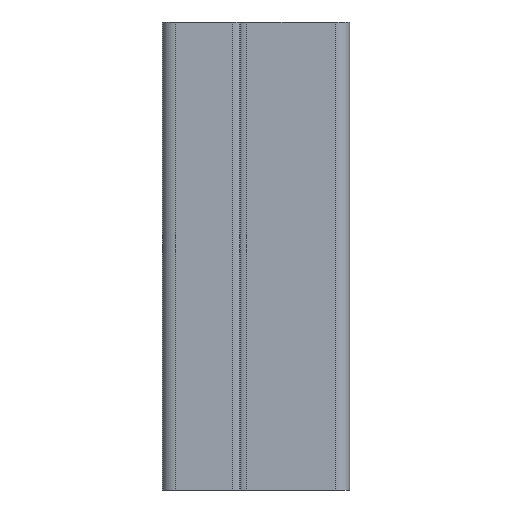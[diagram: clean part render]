
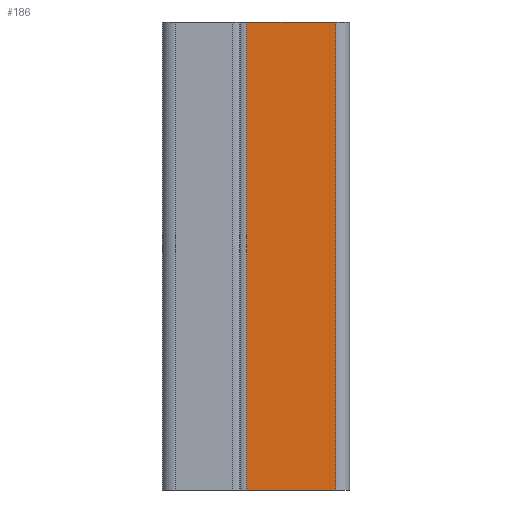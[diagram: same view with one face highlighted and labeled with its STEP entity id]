
A CAD part, left-side view. The second image highlights one B-rep face of the part: STEP entity #186.
In plain terms, the highlighted planar face has unit normal (-1, 0, 0).
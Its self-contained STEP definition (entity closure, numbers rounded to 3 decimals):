
#53 = CARTESIAN_POINT ( 'NONE',  ( -12.5, 9.5, 0. ) ) ;
#112 = VECTOR ( 'NONE', #1296, 1000. ) ;
#113 = EDGE_CURVE ( 'NONE', #1137, #1005, #144, .T. ) ;
#144 = LINE ( 'NONE', #214, #1293 ) ;
#186 = ADVANCED_FACE ( 'NONE', ( #636 ), #322, .F. ) ;
#205 = ORIENTED_EDGE ( 'NONE', *, *, #113, .T. ) ;
#214 = CARTESIAN_POINT ( 'NONE',  ( -12.5, 9.5, 100. ) ) ;
#216 = VERTEX_POINT ( 'NONE', #548 ) ;
#244 = LINE ( 'NONE', #448, #112 ) ;
#261 = EDGE_CURVE ( 'NONE', #216, #1282, #244, .T. ) ;
#322 = PLANE ( 'NONE',  #613 ) ;
#371 = CARTESIAN_POINT ( 'NONE',  ( -12.5, -9.5, 0. ) ) ;
#399 = CARTESIAN_POINT ( 'NONE',  ( -12.5, -9.5, 0. ) ) ;
#448 = CARTESIAN_POINT ( 'NONE',  ( -12.5, -9.5, 100. ) ) ;
#490 = VECTOR ( 'NONE', #893, 1000. ) ;
#533 = CARTESIAN_POINT ( 'NONE',  ( -12.5, -9.5, 100. ) ) ;
#543 = LINE ( 'NONE', #371, #877 ) ;
#548 = CARTESIAN_POINT ( 'NONE',  ( -12.5, -9.5, 100. ) ) ;
#563 = DIRECTION ( 'NONE',  ( 0., -1., 0. ) ) ;
#613 = AXIS2_PLACEMENT_3D ( 'NONE', #533, #1285, #761 ) ;
#636 = FACE_OUTER_BOUND ( 'NONE', #983, .T. ) ;
#759 = ORIENTED_EDGE ( 'NONE', *, *, #1298, .T. ) ;
#761 = DIRECTION ( 'NONE',  ( 0., 1., 0. ) ) ;
#807 = LINE ( 'NONE', #1229, #490 ) ;
#858 = DIRECTION ( 'NONE',  ( 0., 0., -1. ) ) ;
#877 = VECTOR ( 'NONE', #563, 1000. ) ;
#893 = DIRECTION ( 'NONE',  ( 0., -1., 0. ) ) ;
#983 = EDGE_LOOP ( 'NONE', ( #759, #1329, #1068, #205 ) ) ;
#1005 = VERTEX_POINT ( 'NONE', #53 ) ;
#1068 = ORIENTED_EDGE ( 'NONE', *, *, #1092, .F. ) ;
#1092 = EDGE_CURVE ( 'NONE', #1137, #216, #807, .T. ) ;
#1137 = VERTEX_POINT ( 'NONE', #1314 ) ;
#1229 = CARTESIAN_POINT ( 'NONE',  ( -12.5, -9.5, 100. ) ) ;
#1282 = VERTEX_POINT ( 'NONE', #399 ) ;
#1285 = DIRECTION ( 'NONE',  ( 1., 0., 0. ) ) ;
#1293 = VECTOR ( 'NONE', #858, 1000. ) ;
#1296 = DIRECTION ( 'NONE',  ( 0., 0., -1. ) ) ;
#1298 = EDGE_CURVE ( 'NONE', #1005, #1282, #543, .T. ) ;
#1314 = CARTESIAN_POINT ( 'NONE',  ( -12.5, 9.5, 100. ) ) ;
#1329 = ORIENTED_EDGE ( 'NONE', *, *, #261, .F. ) ;
